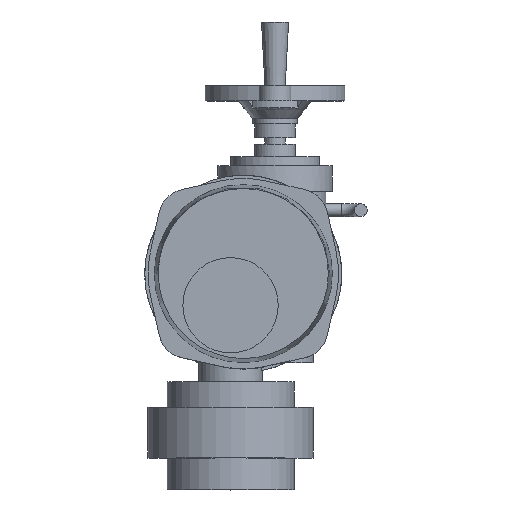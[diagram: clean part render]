
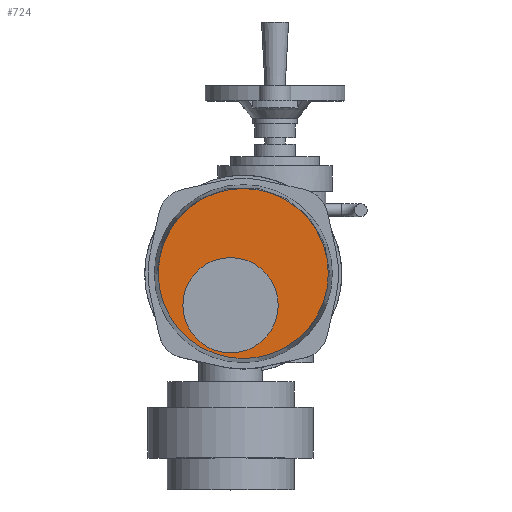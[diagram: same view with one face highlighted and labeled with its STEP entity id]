
A CAD part, top view. The second image highlights one B-rep face of the part: STEP entity #724.
In plain terms, the highlighted planar face has unit normal (0, 0, 1).
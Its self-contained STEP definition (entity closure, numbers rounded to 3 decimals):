
#724=ADVANCED_FACE('',(#7025,#7027),#7029,.T.);
#7025=FACE_BOUND('',#7026,.T.);
#7026=EDGE_LOOP('',(#11927));
#7027=FACE_BOUND('',#7028,.T.);
#7028=EDGE_LOOP('',(#11928));
#7029=PLANE('',#7030);
#7030=AXIS2_PLACEMENT_3D('',#7031,#7032,#7033);
#7031=CARTESIAN_POINT('',(15.,30.,371.));
#7032=DIRECTION('',(0.,0.,1.));
#7033=DIRECTION('',(-1.,0.,0.));
#11927=ORIENTED_EDGE('',*,*,#15681,.T.);
#11928=ORIENTED_EDGE('',*,*,#15684,.F.);
#15681=EDGE_CURVE('',#17772,#17772,#17773,.T.);
#15684=EDGE_CURVE('',#17778,#17778,#17779,.T.);
#17772=VERTEX_POINT('',#22070);
#17773=CIRCLE('',#22071,66.908);
#17778=VERTEX_POINT('',#22085);
#17779=CIRCLE('',#22086,37.5);
#22070=CARTESIAN_POINT('',(-51.908,30.,371.));
#22071=AXIS2_PLACEMENT_3D('',#22072,#22073,#22074);
#22072=CARTESIAN_POINT('',(15.,30.,371.));
#22073=DIRECTION('',(0.,0.,1.));
#22074=DIRECTION('',(-1.,0.,0.));
#22085=CARTESIAN_POINT('',(-32.5,5.,371.));
#22086=AXIS2_PLACEMENT_3D('',#22087,#22088,#22089);
#22087=CARTESIAN_POINT('',(5.,5.,371.));
#22088=DIRECTION('',(0.,0.,1.));
#22089=DIRECTION('',(-1.,0.,0.));
